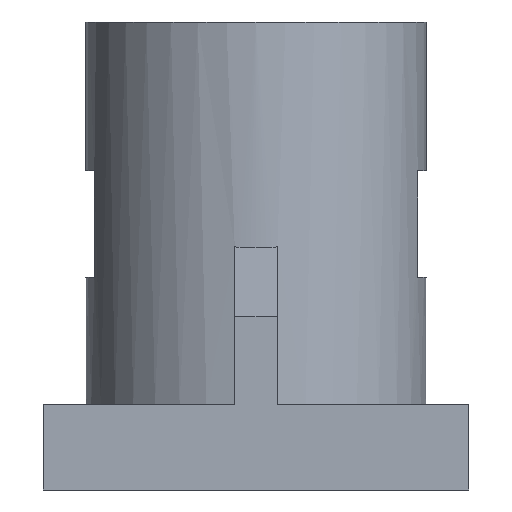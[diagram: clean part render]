
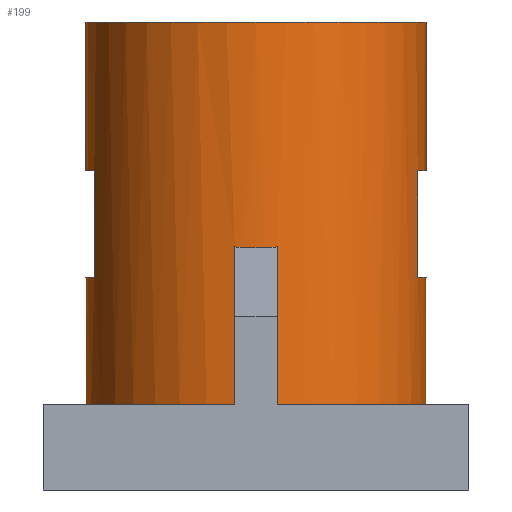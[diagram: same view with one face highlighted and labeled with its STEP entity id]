
A CAD part, left-side view. The second image highlights one B-rep face of the part: STEP entity #199.
In plain terms, the highlighted cylindrical face has radius 40 mm (diameter 80 mm), a full revolution.
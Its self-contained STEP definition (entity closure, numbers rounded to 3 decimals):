
#27=CARTESIAN_POINT('',(0.,0.,90.));
#28=DIRECTION('',(0.,0.,-1.));
#29=DIRECTION('',(-1.,0.,0.));
#30=AXIS2_PLACEMENT_3D('',#27,#28,#29);
#31=CYLINDRICAL_SURFACE('',#30,40.);
#32=CARTESIAN_POINT('',(-40.,0.,36.987));
#33=VERTEX_POINT('',#32);
#34=CARTESIAN_POINT('',(-40.,0.,90.));
#35=VERTEX_POINT('',#34);
#36=CARTESIAN_POINT('',(-40.,0.,36.987));
#37=DIRECTION('',(-0.,-0.,1.));
#38=VECTOR('',#37,53.013);
#39=LINE('',#36,#38);
#40=EDGE_CURVE('',#33,#35,#39,.T.);
#41=ORIENTED_EDGE('',*,*,#40,.T.);
#42=CARTESIAN_POINT('',(0.,0.,90.));
#43=DIRECTION('',(0.,0.,1.));
#44=DIRECTION('',(-1.,0.,0.));
#45=AXIS2_PLACEMENT_3D('',#42,#43,#44);
#46=CIRCLE('',#45,40.);
#47=EDGE_CURVE('',#35,#35,#46,.T.);
#48=ORIENTED_EDGE('',*,*,#47,.F.);
#49=ORIENTED_EDGE('',*,*,#40,.F.);
#50=CARTESIAN_POINT('',(-39.686,-5.,37.134));
#51=VERTEX_POINT('',#50);
#52=CARTESIAN_POINT('',(0.,0.,55.64));
#53=DIRECTION('',(-0.423,-0.,0.906));
#54=DIRECTION('',(-0.906,0.,-0.423));
#55=AXIS2_PLACEMENT_3D('',#52,#53,#54);
#56=ELLIPSE('',#55,44.135,40.);
#57=EDGE_CURVE('',#33,#51,#56,.T.);
#58=ORIENTED_EDGE('',*,*,#57,.T.);
#59=CARTESIAN_POINT('',(-39.686,-5.,0.));
#60=VERTEX_POINT('',#59);
#61=CARTESIAN_POINT('',(-39.686,-5.,37.134));
#62=DIRECTION('',(0.,0.,-1.));
#63=VECTOR('',#62,37.134);
#64=LINE('',#61,#63);
#65=EDGE_CURVE('',#51,#60,#64,.T.);
#66=ORIENTED_EDGE('',*,*,#65,.T.);
#67=CARTESIAN_POINT('',(39.686,-5.,0.));
#68=VERTEX_POINT('',#67);
#69=CARTESIAN_POINT('',(0.,0.,0.));
#70=DIRECTION('',(0.,0.,1.));
#71=DIRECTION('',(-1.,0.,0.));
#72=AXIS2_PLACEMENT_3D('',#69,#70,#71);
#73=CIRCLE('',#72,40.);
#74=EDGE_CURVE('',#60,#68,#73,.T.);
#75=ORIENTED_EDGE('',*,*,#74,.T.);
#76=CARTESIAN_POINT('',(39.686,-5.,36.467));
#77=VERTEX_POINT('',#76);
#78=CARTESIAN_POINT('',(39.686,-5.,0.));
#79=DIRECTION('',(-0.,-0.,1.));
#80=VECTOR('',#79,36.467);
#81=LINE('',#78,#80);
#82=EDGE_CURVE('',#68,#77,#81,.T.);
#83=ORIENTED_EDGE('',*,*,#82,.T.);
#84=CARTESIAN_POINT('',(39.686,5.,36.467));
#85=VERTEX_POINT('',#84);
#86=CARTESIAN_POINT('',(0.,0.,54.973));
#87=DIRECTION('',(-0.423,-0.,-0.906));
#88=DIRECTION('',(0.906,0.,-0.423));
#89=AXIS2_PLACEMENT_3D('',#86,#87,#88);
#90=ELLIPSE('',#89,44.135,40.);
#91=EDGE_CURVE('',#85,#77,#90,.T.);
#92=ORIENTED_EDGE('',*,*,#91,.F.);
#93=CARTESIAN_POINT('',(39.686,5.,0.));
#94=VERTEX_POINT('',#93);
#95=CARTESIAN_POINT('',(39.686,5.,0.));
#96=DIRECTION('',(-0.,-0.,1.));
#97=VECTOR('',#96,36.467);
#98=LINE('',#95,#97);
#99=EDGE_CURVE('',#94,#85,#98,.T.);
#100=ORIENTED_EDGE('',*,*,#99,.F.);
#101=CARTESIAN_POINT('',(-39.686,5.,0.));
#102=VERTEX_POINT('',#101);
#103=CARTESIAN_POINT('',(0.,0.,0.));
#104=DIRECTION('',(0.,0.,1.));
#105=DIRECTION('',(-1.,0.,0.));
#106=AXIS2_PLACEMENT_3D('',#103,#104,#105);
#107=CIRCLE('',#106,40.);
#108=EDGE_CURVE('',#94,#102,#107,.T.);
#109=ORIENTED_EDGE('',*,*,#108,.T.);
#110=CARTESIAN_POINT('',(-39.686,5.,37.134));
#111=VERTEX_POINT('',#110);
#112=CARTESIAN_POINT('',(-39.686,5.,37.134));
#113=DIRECTION('',(0.,0.,-1.));
#114=VECTOR('',#113,37.134);
#115=LINE('',#112,#114);
#116=EDGE_CURVE('',#111,#102,#115,.T.);
#117=ORIENTED_EDGE('',*,*,#116,.F.);
#118=CARTESIAN_POINT('',(0.,0.,55.64));
#119=DIRECTION('',(-0.423,-0.,0.906));
#120=DIRECTION('',(-0.906,0.,-0.423));
#121=AXIS2_PLACEMENT_3D('',#118,#119,#120);
#122=ELLIPSE('',#121,44.135,40.);
#123=EDGE_CURVE('',#111,#33,#122,.T.);
#124=ORIENTED_EDGE('',*,*,#123,.T.);
#125=EDGE_LOOP('',(#41,#48,#49,#58,#66,#75,#83,#92,#100,#109,#117,#124));
#126=FACE_BOUND('',#125,.T.);
#127=CARTESIAN_POINT('',(12.5,37.997,55.));
#128=VERTEX_POINT('',#127);
#129=CARTESIAN_POINT('',(12.5,37.997,30.));
#130=VERTEX_POINT('',#129);
#131=CARTESIAN_POINT('',(12.5,37.997,55.));
#132=DIRECTION('',(0.,0.,-1.));
#133=VECTOR('',#132,25.);
#134=LINE('',#131,#133);
#135=EDGE_CURVE('',#128,#130,#134,.T.);
#136=ORIENTED_EDGE('',*,*,#135,.F.);
#137=CARTESIAN_POINT('',(-12.5,37.997,55.));
#138=VERTEX_POINT('',#137);
#139=CARTESIAN_POINT('',(0.,0.,55.));
#140=DIRECTION('',(0.,0.,-1.));
#141=DIRECTION('',(-1.,0.,0.));
#142=AXIS2_PLACEMENT_3D('',#139,#140,#141);
#143=CIRCLE('',#142,40.);
#144=EDGE_CURVE('',#138,#128,#143,.T.);
#145=ORIENTED_EDGE('',*,*,#144,.F.);
#146=CARTESIAN_POINT('',(-12.5,37.997,30.));
#147=VERTEX_POINT('',#146);
#148=CARTESIAN_POINT('',(-12.5,37.997,30.));
#149=DIRECTION('',(-0.,-0.,1.));
#150=VECTOR('',#149,25.);
#151=LINE('',#148,#150);
#152=EDGE_CURVE('',#147,#138,#151,.T.);
#153=ORIENTED_EDGE('',*,*,#152,.F.);
#154=CARTESIAN_POINT('',(0.,0.,30.));
#155=DIRECTION('',(0.,0.,1.));
#156=DIRECTION('',(1.,0.,-0.));
#157=AXIS2_PLACEMENT_3D('',#154,#155,#156);
#158=CIRCLE('',#157,40.);
#159=EDGE_CURVE('',#130,#147,#158,.T.);
#160=ORIENTED_EDGE('',*,*,#159,.F.);
#161=EDGE_LOOP('',(#136,#145,#153,#160));
#162=FACE_BOUND('',#161,.T.);
#163=CARTESIAN_POINT('',(-12.5,-37.997,55.));
#164=VERTEX_POINT('',#163);
#165=CARTESIAN_POINT('',(-12.5,-37.997,30.));
#166=VERTEX_POINT('',#165);
#167=CARTESIAN_POINT('',(-12.5,-37.997,55.));
#168=DIRECTION('',(0.,0.,-1.));
#169=VECTOR('',#168,25.);
#170=LINE('',#167,#169);
#171=EDGE_CURVE('',#164,#166,#170,.T.);
#172=ORIENTED_EDGE('',*,*,#171,.F.);
#173=CARTESIAN_POINT('',(12.5,-37.997,55.));
#174=VERTEX_POINT('',#173);
#175=CARTESIAN_POINT('',(0.,0.,55.));
#176=DIRECTION('',(0.,0.,-1.));
#177=DIRECTION('',(-1.,0.,0.));
#178=AXIS2_PLACEMENT_3D('',#175,#176,#177);
#179=CIRCLE('',#178,40.);
#180=EDGE_CURVE('',#174,#164,#179,.T.);
#181=ORIENTED_EDGE('',*,*,#180,.F.);
#182=CARTESIAN_POINT('',(12.5,-37.997,30.));
#183=VERTEX_POINT('',#182);
#184=CARTESIAN_POINT('',(12.5,-37.997,30.));
#185=DIRECTION('',(-0.,-0.,1.));
#186=VECTOR('',#185,25.);
#187=LINE('',#184,#186);
#188=EDGE_CURVE('',#183,#174,#187,.T.);
#189=ORIENTED_EDGE('',*,*,#188,.F.);
#190=CARTESIAN_POINT('',(0.,0.,30.));
#191=DIRECTION('',(0.,0.,1.));
#192=DIRECTION('',(1.,0.,-0.));
#193=AXIS2_PLACEMENT_3D('',#190,#191,#192);
#194=CIRCLE('',#193,40.);
#195=EDGE_CURVE('',#166,#183,#194,.T.);
#196=ORIENTED_EDGE('',*,*,#195,.F.);
#197=EDGE_LOOP('',(#172,#181,#189,#196));
#198=FACE_BOUND('',#197,.T.);
#199=ADVANCED_FACE('',(#126,#162,#198),#31,.T.);
